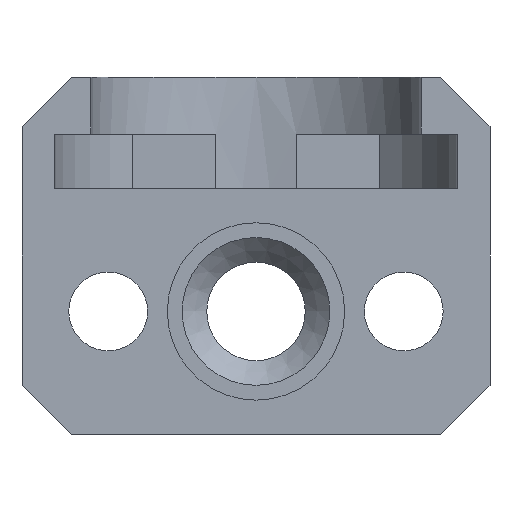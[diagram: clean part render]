
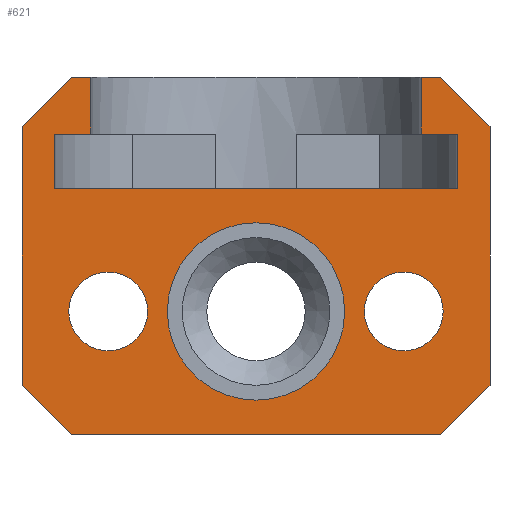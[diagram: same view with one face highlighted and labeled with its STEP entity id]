
A CAD part, front view. The second image highlights one B-rep face of the part: STEP entity #621.
In plain terms, the highlighted planar face has unit normal (0, -1, 0).
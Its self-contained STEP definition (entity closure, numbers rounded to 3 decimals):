
#29=FACE_BOUND('',#96,.T.);
#30=FACE_BOUND('',#97,.T.);
#31=FACE_BOUND('',#98,.T.);
#34=CIRCLE('',#670,1.6);
#35=CIRCLE('',#671,1.6);
#36=CIRCLE('',#672,3.6);
#61=FACE_OUTER_BOUND('',#95,.T.);
#95=EDGE_LOOP('',(#421,#422,#423,#424,#425,#426,#427,#428,#429,#430,#431,
#432,#433,#434,#435,#436));
#96=EDGE_LOOP('',(#437));
#97=EDGE_LOOP('',(#438));
#98=EDGE_LOOP('',(#439));
#134=LINE('',#925,#199);
#136=LINE('',#929,#201);
#139=LINE('',#935,#204);
#140=LINE('',#937,#205);
#141=LINE('',#939,#206);
#142=LINE('',#941,#207);
#143=LINE('',#943,#208);
#144=LINE('',#945,#209);
#145=LINE('',#947,#210);
#146=LINE('',#949,#211);
#147=LINE('',#951,#212);
#148=LINE('',#953,#213);
#149=LINE('',#955,#214);
#150=LINE('',#957,#215);
#151=LINE('',#959,#216);
#152=LINE('',#960,#217);
#199=VECTOR('',#734,10.);
#201=VECTOR('',#738,10.);
#204=VECTOR('',#743,10.);
#205=VECTOR('',#744,10.);
#206=VECTOR('',#745,10.);
#207=VECTOR('',#746,10.);
#208=VECTOR('',#747,10.);
#209=VECTOR('',#748,10.);
#210=VECTOR('',#749,10.);
#211=VECTOR('',#750,10.);
#212=VECTOR('',#751,10.);
#213=VECTOR('',#752,10.);
#214=VECTOR('',#753,10.);
#215=VECTOR('',#754,10.);
#216=VECTOR('',#755,10.);
#217=VECTOR('',#756,10.);
#264=VERTEX_POINT('',#922);
#265=VERTEX_POINT('',#924);
#266=VERTEX_POINT('',#928);
#268=VERTEX_POINT('',#934);
#269=VERTEX_POINT('',#936);
#270=VERTEX_POINT('',#938);
#271=VERTEX_POINT('',#940);
#272=VERTEX_POINT('',#942);
#273=VERTEX_POINT('',#944);
#274=VERTEX_POINT('',#946);
#275=VERTEX_POINT('',#948);
#276=VERTEX_POINT('',#950);
#277=VERTEX_POINT('',#952);
#278=VERTEX_POINT('',#954);
#279=VERTEX_POINT('',#956);
#280=VERTEX_POINT('',#958);
#281=VERTEX_POINT('',#961);
#282=VERTEX_POINT('',#963);
#283=VERTEX_POINT('',#965);
#323=EDGE_CURVE('',#264,#265,#134,.T.);
#325=EDGE_CURVE('',#266,#265,#136,.F.);
#328=EDGE_CURVE('',#268,#264,#139,.T.);
#329=EDGE_CURVE('',#269,#268,#140,.T.);
#330=EDGE_CURVE('',#269,#270,#141,.T.);
#331=EDGE_CURVE('',#270,#271,#142,.T.);
#332=EDGE_CURVE('',#271,#272,#143,.T.);
#333=EDGE_CURVE('',#272,#273,#144,.T.);
#334=EDGE_CURVE('',#273,#274,#145,.T.);
#335=EDGE_CURVE('',#274,#275,#146,.T.);
#336=EDGE_CURVE('',#275,#276,#147,.T.);
#337=EDGE_CURVE('',#276,#277,#148,.T.);
#338=EDGE_CURVE('',#277,#278,#149,.T.);
#339=EDGE_CURVE('',#278,#279,#150,.T.);
#340=EDGE_CURVE('',#280,#279,#151,.T.);
#341=EDGE_CURVE('',#280,#266,#152,.T.);
#342=EDGE_CURVE('',#281,#281,#34,.T.);
#343=EDGE_CURVE('',#282,#282,#35,.T.);
#344=EDGE_CURVE('',#283,#283,#36,.T.);
#421=ORIENTED_EDGE('',*,*,#323,.F.);
#422=ORIENTED_EDGE('',*,*,#328,.F.);
#423=ORIENTED_EDGE('',*,*,#329,.F.);
#424=ORIENTED_EDGE('',*,*,#330,.T.);
#425=ORIENTED_EDGE('',*,*,#331,.T.);
#426=ORIENTED_EDGE('',*,*,#332,.T.);
#427=ORIENTED_EDGE('',*,*,#333,.T.);
#428=ORIENTED_EDGE('',*,*,#334,.T.);
#429=ORIENTED_EDGE('',*,*,#335,.T.);
#430=ORIENTED_EDGE('',*,*,#336,.T.);
#431=ORIENTED_EDGE('',*,*,#337,.T.);
#432=ORIENTED_EDGE('',*,*,#338,.T.);
#433=ORIENTED_EDGE('',*,*,#339,.T.);
#434=ORIENTED_EDGE('',*,*,#340,.F.);
#435=ORIENTED_EDGE('',*,*,#341,.T.);
#436=ORIENTED_EDGE('',*,*,#325,.T.);
#437=ORIENTED_EDGE('',*,*,#342,.T.);
#438=ORIENTED_EDGE('',*,*,#343,.F.);
#439=ORIENTED_EDGE('',*,*,#344,.F.);
#599=PLANE('',#669);
#621=ADVANCED_FACE('',(#61,#29,#30,#31),#599,.T.);
#669=AXIS2_PLACEMENT_3D('',#933,#741,#742);
#670=AXIS2_PLACEMENT_3D('',#962,#757,#758);
#671=AXIS2_PLACEMENT_3D('',#964,#759,#760);
#672=AXIS2_PLACEMENT_3D('',#966,#761,#762);
#734=DIRECTION('',(-0.707,0.,0.707));
#738=DIRECTION('',(0.,0.,1.));
#741=DIRECTION('center_axis',(0.,-1.,0.));
#742=DIRECTION('ref_axis',(0.,0.,-1.));
#743=DIRECTION('',(-1.,0.,0.));
#744=DIRECTION('',(-0.707,0.,-0.707));
#745=DIRECTION('',(0.,0.,1.));
#746=DIRECTION('',(-0.707,0.,0.707));
#747=DIRECTION('',(-1.,0.,0.));
#748=DIRECTION('',(0.,0.,-1.));
#749=DIRECTION('',(1.,0.,0.));
#750=DIRECTION('',(0.,0.,-1.));
#751=DIRECTION('',(-1.,0.,0.));
#752=DIRECTION('',(0.,0.,1.));
#753=DIRECTION('',(1.,0.,0.));
#754=DIRECTION('',(0.,0.,1.));
#755=DIRECTION('',(1.,0.,0.));
#756=DIRECTION('',(-0.707,0.,-0.707));
#757=DIRECTION('center_axis',(0.,1.,0.));
#758=DIRECTION('ref_axis',(1.,0.,0.));
#759=DIRECTION('center_axis',(0.,-1.,0.));
#760=DIRECTION('ref_axis',(-1.,0.,0.));
#761=DIRECTION('center_axis',(0.,-1.,0.));
#762=DIRECTION('ref_axis',(-1.,0.,0.));
#922=CARTESIAN_POINT('',(-7.5,0.,-102.));
#924=CARTESIAN_POINT('',(-9.5,0.,-100.));
#925=CARTESIAN_POINT('',(-7.25,0.,-102.25));
#928=CARTESIAN_POINT('',(-9.5,0.,-89.5));
#929=CARTESIAN_POINT('',(-9.5,0.,-95.));
#933=CARTESIAN_POINT('Origin',(0.,0.,
-97.5));
#934=CARTESIAN_POINT('',(7.5,0.,-102.));
#935=CARTESIAN_POINT('',(0.,0.,-102.));
#936=CARTESIAN_POINT('',(9.5,0.,-100.));
#937=CARTESIAN_POINT('',(7.25,0.,-102.25));
#938=CARTESIAN_POINT('',(9.5,0.,-89.5));
#939=CARTESIAN_POINT('',(9.5,0.,-95.));
#940=CARTESIAN_POINT('',(7.5,0.,-87.5));
#941=CARTESIAN_POINT('',(8.625,0.,-88.625));
#942=CARTESIAN_POINT('',(6.7,0.,-87.5));
#943=CARTESIAN_POINT('',(0.,0.,-87.5));
#944=CARTESIAN_POINT('',(6.7,0.,-89.8));
#945=CARTESIAN_POINT('',(6.7,0.,-90.));
#946=CARTESIAN_POINT('',(8.2,0.,-89.8));
#947=CARTESIAN_POINT('',(0.,0.,-89.8));
#948=CARTESIAN_POINT('',(8.2,0.,-92.));
#949=CARTESIAN_POINT('',(8.2,0.,-95.));
#950=CARTESIAN_POINT('',(-8.2,0.,-92.));
#951=CARTESIAN_POINT('',(0.,0.,-92.));
#952=CARTESIAN_POINT('',(-8.2,0.,-89.8));
#953=CARTESIAN_POINT('',(-8.2,0.,-95.));
#954=CARTESIAN_POINT('',(-6.7,0.,-89.8));
#955=CARTESIAN_POINT('',(0.,0.,-89.8));
#956=CARTESIAN_POINT('',(-6.7,0.,-87.5));
#957=CARTESIAN_POINT('',(-6.7,0.,-87.5));
#958=CARTESIAN_POINT('',(-7.5,0.,-87.5));
#959=CARTESIAN_POINT('',(-7.5,0.,-87.5));
#960=CARTESIAN_POINT('',(-8.625,0.,-88.625));
#961=CARTESIAN_POINT('',(-7.6,0.,-97.));
#962=CARTESIAN_POINT('Origin',(-6.,0.,-97.));
#963=CARTESIAN_POINT('',(7.6,0.,-97.));
#964=CARTESIAN_POINT('Origin',(6.,0.,-97.));
#965=CARTESIAN_POINT('',(3.6,0.,-97.));
#966=CARTESIAN_POINT('Origin',(0.,0.,
-97.));
